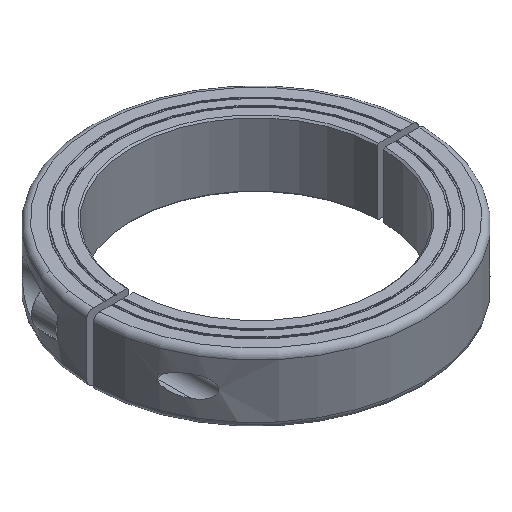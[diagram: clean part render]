
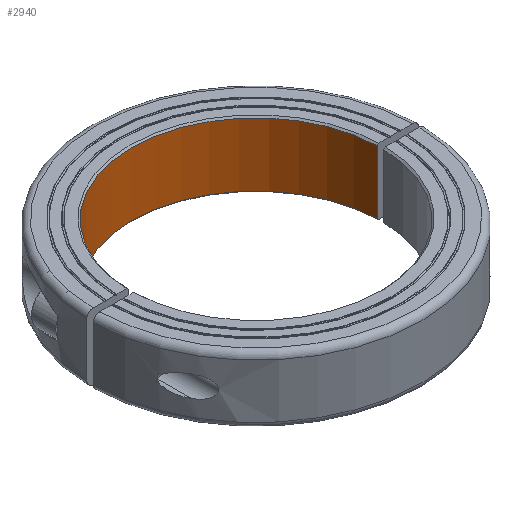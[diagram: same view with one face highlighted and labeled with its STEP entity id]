
A CAD part, isometric view. The second image highlights one B-rep face of the part: STEP entity #2940.
In plain terms, the highlighted cylindrical face has radius 60 mm (diameter 120 mm), a partial arc.
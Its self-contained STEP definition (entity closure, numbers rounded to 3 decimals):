
#2233=CARTESIAN_POINT('',(-59.979,1.584,
-31.25));
#2238=DIRECTION('',(0.,0.,1.));
#2239=VECTOR('',#2238,30.5);
#2240=CARTESIAN_POINT('',(-59.979,1.584,
-31.25));
#2241=LINE('',#2240,#2239);
#2245=CARTESIAN_POINT('',(-59.979,1.584,
-0.75));
#2301=DIRECTION('',(0.,0.,-1.));
#2302=VECTOR('',#2301,30.5);
#2303=CARTESIAN_POINT('',(59.979,1.584,
-0.75));
#2304=LINE('',#2303,#2302);
#2308=CARTESIAN_POINT('',(59.979,1.584,-31.25));
#2375=CARTESIAN_POINT('',(59.979,1.584,
-0.75));
#2390=CARTESIAN_POINT('',(0.,0.,-0.75));
#2391=DIRECTION('',(0.,0.,1.));
#2392=DIRECTION('',(1.,0.026,0.));
#2393=AXIS2_PLACEMENT_3D('',#2390,#2391,#2392);
#2430=CARTESIAN_POINT('',(0.,0.,-31.25));
#2431=DIRECTION('',(0.,0.,-1.));
#2432=DIRECTION('',(-1.,0.026,0.));
#2433=AXIS2_PLACEMENT_3D('',#2430,#2431,#2432);
#2694=VERTEX_POINT('',#2233);
#2696=VERTEX_POINT('',#2245);
#2711=VERTEX_POINT('',#2308);
#2725=VERTEX_POINT('',#2375);
#2927=CARTESIAN_POINT('',(0.,0.,-0.75));
#2928=DIRECTION('',(0.,0.,-1.));
#2929=DIRECTION('',(-1.,0.,0.));
#2930=AXIS2_PLACEMENT_3D('',#2927,#2928,#2929);
#2931=CYLINDRICAL_SURFACE('',#2930,60.);
#2932=ORIENTED_EDGE('',*,*,#2881,.F.);
#2934=ORIENTED_EDGE('',*,*,#2933,.T.);
#2935=ORIENTED_EDGE('',*,*,#2798,.F.);
#2937=ORIENTED_EDGE('',*,*,#2936,.T.);
#2938=EDGE_LOOP('',(#2932,#2934,#2935,#2937));
#2939=FACE_OUTER_BOUND('',#2938,.F.);
#2394=CIRCLE('',#2393,60.);
#2434=CIRCLE('',#2433,60.);
#2798=EDGE_CURVE('',#2694,#2696,#2241,.T.);
#2881=EDGE_CURVE('',#2725,#2711,#2304,.T.);
#2933=EDGE_CURVE('',#2725,#2696,#2394,.T.);
#2936=EDGE_CURVE('',#2694,#2711,#2434,.T.);
#2940=ADVANCED_FACE('',(#2939),#2931,.T.);
